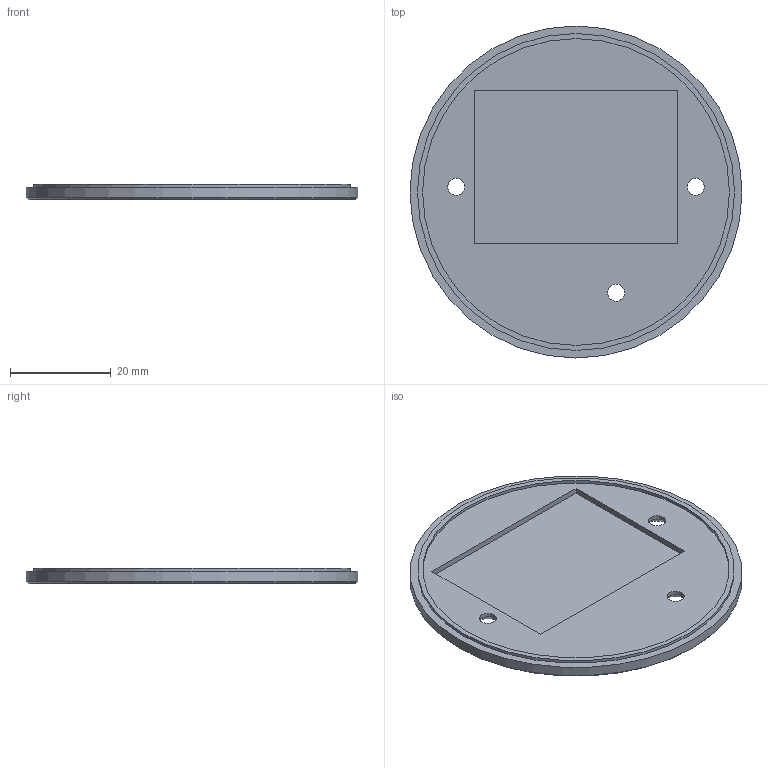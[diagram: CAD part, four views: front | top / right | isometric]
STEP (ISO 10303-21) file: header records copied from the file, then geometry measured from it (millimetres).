
FILE_DESCRIPTION(('Open CASCADE Model'),'2;1');
FILE_NAME('Open CASCADE Shape Model','2026-11-10T13:49:22',('Author'),( 'Open CASCADE'),'Open CASCADE STEP processor 7.9','Open CASCADE 7.9' ,'Unknown');
FILE_SCHEMA(('AUTOMOTIVE_DESIGN { 1 0 10303 214 1 1 1 1 }'));
Length unit declared in the file: millimetre
Products named in the file (2): battery-cover-model; battery-cover
Assembly tree (1 placements, depth 2):
  battery-cover-model
    battery-cover
Bounding box: 66 x 66 x 3 mm (x, y, z)
Volume: 6709.7 mm3; surface area: 7697.8 mm2
Topology: 1 solids, 1 shells, 19 faces, 38 edges, 24 vertices
Faces by surface type: plane 9, cylinder 6, cone 4
Full cylindrical faces by diameter (mm): 3.4 x3, 61 x1, 63 x1, 66 x1
Entity records: 1041 total; most frequent: CARTESIAN_POINT 193, DIRECTION 158, ORIENTED_EDGE 76, PCURVE 76, DEFINITIONAL_REPRESENTATION 76, LINE 76, VECTOR 76, EDGE_CURVE 38
